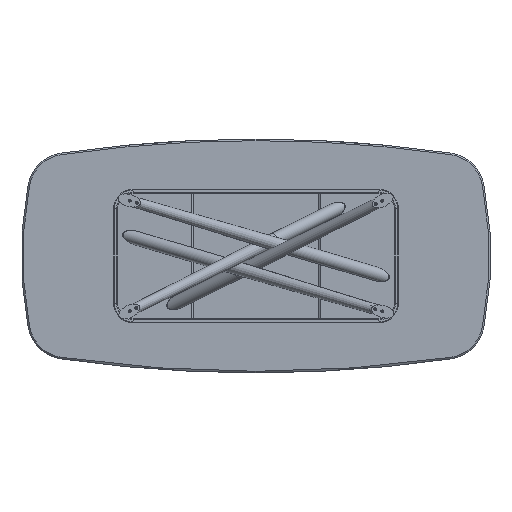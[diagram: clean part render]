
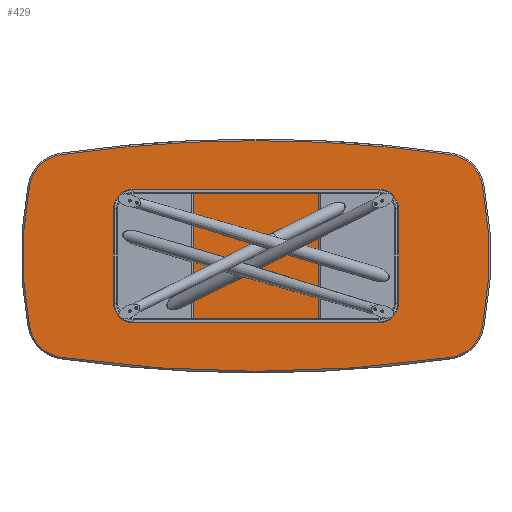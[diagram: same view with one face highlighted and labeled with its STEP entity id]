
A CAD part, front view. The second image highlights one B-rep face of the part: STEP entity #429.
In plain terms, the highlighted planar face has unit normal (0, -1, 0).
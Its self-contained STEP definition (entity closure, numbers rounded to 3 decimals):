
#155 = CIRCLE ( 'NONE', #1840, 6942. ) ;
#258 = CIRCLE ( 'NONE', #1946, 192. ) ;
#394 = VERTEX_POINT ( 'NONE', #1753 ) ;
#409 = VERTEX_POINT ( 'NONE', #5785 ) ;
#424 = AXIS2_PLACEMENT_3D ( 'NONE', #9850, #7511, #9907 ) ;
#429 = ADVANCED_FACE ( 'NONE', ( #6629 ), #5835, .F. ) ;
#593 = DIRECTION ( 'NONE',  ( 0., -1., 0. ) ) ;
#657 = EDGE_CURVE ( 'NONE', #5282, #6226, #155, .T. ) ;
#803 = VERTEX_POINT ( 'NONE', #3437 ) ;
#938 = CARTESIAN_POINT ( 'NONE',  ( 0., 0., 587. ) ) ;
#1041 = CIRCLE ( 'NONE', #9529, 6942. ) ;
#1184 = DIRECTION ( 'NONE',  ( 0., -1., 0. ) ) ;
#1295 = DIRECTION ( 'NONE',  ( 0., 0., 1. ) ) ;
#1431 = ORIENTED_EDGE ( 'NONE', *, *, #8047, .T. ) ;
#1753 = CARTESIAN_POINT ( 'NONE',  ( 1151.911, 0., 362.691 ) ) ;
#1840 = AXIS2_PLACEMENT_3D ( 'NONE', #10342, #8812, #3982 ) ;
#1946 = AXIS2_PLACEMENT_3D ( 'NONE', #2305, #5596, #8837 ) ;
#2305 = CARTESIAN_POINT ( 'NONE',  ( -963.472, 0., 325.885 ) ) ;
#2593 = EDGE_CURVE ( 'NONE', #3666, #409, #1041, .T. ) ;
#2642 = DIRECTION ( 'NONE',  ( 0., 0., 1. ) ) ;
#2728 = CIRCLE ( 'NONE', #5635, 6942. ) ;
#2912 = DIRECTION ( 'NONE',  ( 0., 0., 1. ) ) ;
#3029 = ORIENTED_EDGE ( 'NONE', *, *, #9783, .T. ) ;
#3092 = CARTESIAN_POINT ( 'NONE',  ( 705., 0., 0. ) ) ;
#3146 = DIRECTION ( 'NONE',  ( 0., 0., 1. ) ) ;
#3311 = EDGE_CURVE ( 'NONE', #6226, #3776, #2728, .T. ) ;
#3437 = CARTESIAN_POINT ( 'NONE',  ( 1151.911, 0., -362.691 ) ) ;
#3666 = VERTEX_POINT ( 'NONE', #9282 ) ;
#3776 = VERTEX_POINT ( 'NONE', #8478 ) ;
#3982 = DIRECTION ( 'NONE',  ( 0., 0., 1. ) ) ;
#4021 = DIRECTION ( 'NONE',  ( 0., 0., 1. ) ) ;
#4397 = VERTEX_POINT ( 'NONE', #6612 ) ;
#4999 = EDGE_LOOP ( 'NONE', ( #3029, #8232, #1431, #6796, #7608, #6800, #10405, #5017, #8086 ) ) ;
#5017 = ORIENTED_EDGE ( 'NONE', *, *, #6674, .T. ) ;
#5282 = VERTEX_POINT ( 'NONE', #6630 ) ;
#5345 = CARTESIAN_POINT ( 'NONE',  ( -1151.911, 0., 362.691 ) ) ;
#5441 = CARTESIAN_POINT ( 'NONE',  ( 963.472, 0., 325.885 ) ) ;
#5458 = CIRCLE ( 'NONE', #6472, 1892. ) ;
#5508 = DIRECTION ( 'NONE',  ( 0., 0., 1. ) ) ;
#5596 = DIRECTION ( 'NONE',  ( 0., -1., 0. ) ) ;
#5635 = AXIS2_PLACEMENT_3D ( 'NONE', #7745, #593, #2912 ) ;
#5657 = DIRECTION ( 'NONE',  ( 0., -1., 0. ) ) ;
#5785 = CARTESIAN_POINT ( 'NONE',  ( 990.878, 0., -515.919 ) ) ;
#5789 = CIRCLE ( 'NONE', #6285, 192. ) ;
#5835 = PLANE ( 'NONE',  #6424 ) ;
#6226 = VERTEX_POINT ( 'NONE', #938 ) ;
#6265 = EDGE_CURVE ( 'NONE', #803, #394, #9752, .T. ) ;
#6285 = AXIS2_PLACEMENT_3D ( 'NONE', #5441, #5657, #8789 ) ;
#6288 = CARTESIAN_POINT ( 'NONE',  ( 0., 0., 6355. ) ) ;
#6319 = DIRECTION ( 'NONE',  ( 0., -1., 0. ) ) ;
#6376 = AXIS2_PLACEMENT_3D ( 'NONE', #7953, #8960, #4021 ) ;
#6424 = AXIS2_PLACEMENT_3D ( 'NONE', #9080, #6684, #2642 ) ;
#6472 = AXIS2_PLACEMENT_3D ( 'NONE', #3092, #6319, #3146 ) ;
#6612 = CARTESIAN_POINT ( 'NONE',  ( -1151.911, 0., -362.691 ) ) ;
#6629 = FACE_OUTER_BOUND ( 'NONE', #4999, .T. ) ;
#6630 = CARTESIAN_POINT ( 'NONE',  ( 990.878, 0., 515.919 ) ) ;
#6674 = EDGE_CURVE ( 'NONE', #3776, #7335, #258, .T. ) ;
#6684 = DIRECTION ( 'NONE',  ( 0., 1., 0. ) ) ;
#6796 = ORIENTED_EDGE ( 'NONE', *, *, #6265, .T. ) ;
#6800 = ORIENTED_EDGE ( 'NONE', *, *, #657, .T. ) ;
#7335 = VERTEX_POINT ( 'NONE', #5345 ) ;
#7511 = DIRECTION ( 'NONE',  ( 0., -1., 0. ) ) ;
#7608 = ORIENTED_EDGE ( 'NONE', *, *, #7855, .T. ) ;
#7745 = CARTESIAN_POINT ( 'NONE',  ( 0., 0., -6355. ) ) ;
#7760 = CARTESIAN_POINT ( 'NONE',  ( 963.472, 0., -325.885 ) ) ;
#7855 = EDGE_CURVE ( 'NONE', #394, #5282, #5789, .T. ) ;
#7953 = CARTESIAN_POINT ( 'NONE',  ( -963.472, 0., -325.885 ) ) ;
#8047 = EDGE_CURVE ( 'NONE', #409, #803, #10192, .T. ) ;
#8052 = DIRECTION ( 'NONE',  ( 0., -1., 0. ) ) ;
#8086 = ORIENTED_EDGE ( 'NONE', *, *, #8213, .T. ) ;
#8158 = AXIS2_PLACEMENT_3D ( 'NONE', #7760, #1184, #1295 ) ;
#8213 = EDGE_CURVE ( 'NONE', #7335, #4397, #5458, .T. ) ;
#8232 = ORIENTED_EDGE ( 'NONE', *, *, #2593, .T. ) ;
#8478 = CARTESIAN_POINT ( 'NONE',  ( -990.878, 0., 515.919 ) ) ;
#8789 = DIRECTION ( 'NONE',  ( 0., 0., 1. ) ) ;
#8812 = DIRECTION ( 'NONE',  ( 0., -1., 0. ) ) ;
#8837 = DIRECTION ( 'NONE',  ( 0., 0., 1. ) ) ;
#8960 = DIRECTION ( 'NONE',  ( 0., -1., 0. ) ) ;
#9080 = CARTESIAN_POINT ( 'NONE',  ( -352.5, 0., 3177.5 ) ) ;
#9282 = CARTESIAN_POINT ( 'NONE',  ( -990.878, 0., -515.919 ) ) ;
#9529 = AXIS2_PLACEMENT_3D ( 'NONE', #6288, #8052, #5508 ) ;
#9752 = CIRCLE ( 'NONE', #424, 1892. ) ;
#9783 = EDGE_CURVE ( 'NONE', #4397, #3666, #10448, .T. ) ;
#9850 = CARTESIAN_POINT ( 'NONE',  ( -705., 0., 0. ) ) ;
#9907 = DIRECTION ( 'NONE',  ( 0., 0., 1. ) ) ;
#10192 = CIRCLE ( 'NONE', #8158, 192. ) ;
#10342 = CARTESIAN_POINT ( 'NONE',  ( 0., 0., -6355. ) ) ;
#10405 = ORIENTED_EDGE ( 'NONE', *, *, #3311, .T. ) ;
#10448 = CIRCLE ( 'NONE', #6376, 192. ) ;
